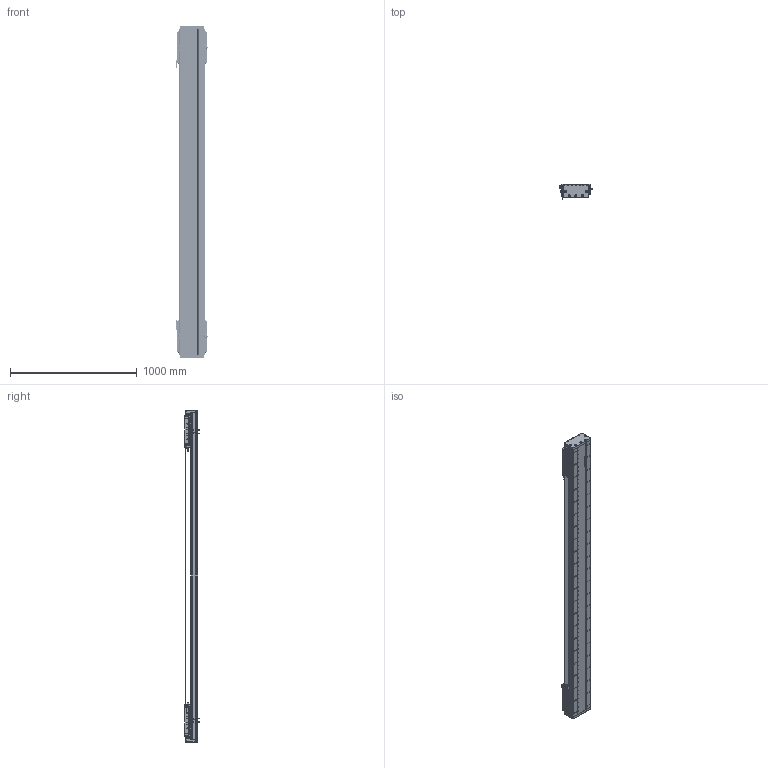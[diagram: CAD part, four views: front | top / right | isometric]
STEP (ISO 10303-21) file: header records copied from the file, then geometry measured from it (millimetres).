
FILE_DESCRIPTION (( 'STEP AP203' ), '1' );
FILE_NAME ('DA-C195-2-C3-T2000-C010-0.2 眻盄萇儂.STEP', '2025-08-15T00:46:18', ( '' ), ( '' ), 'SwSTEP 2.0', 'SolidWorks 2019', '' );
FILE_SCHEMA (( 'CONFIG_CONTROL_DESIGN' ));
Length unit declared in the file: millimetre
Products named in the file (19): DA-C195-GD-DB-H-00 傷啣; DA195詩湍嶺輸; CU195-C3賑輸-俋楷; PM-T45ㄗ侂狟ㄘ; DKW-KGZ-ZJ-00 中间光电开关支架; IU-CU195-L 菁釱絳寢; DA195詩湍裔啣; DKW168-HXJ-ZJ-00 笢潔滅袉砎蝶; DA195詩湍郪璃; PM-Y65嫖萇羲壽郪璃; MS200 棠掑喜S315-T240; DA195詩湍菜輸; 葩璃 DA95-GT-T-00; DA95-HXJ-00 遣喳砎蝶; IU-CU195-L-00 菁釱(L2580); DA-C195-2-C3-T2000-C010-0.2 眻盄萇儂; DA165-GYP-00 光电感应片(默认); DKW-GYP-ZJ-00 笢潔嫖萇覜茼え; LMT黍杅芛
Assembly tree (37 placements, depth 3):
  DA-C195-2-C3-T2000-C010-0.2 眻盄萇儂
    DA195詩湍郪璃
      DA195詩湍菜輸  x2
      DA195詩湍裔啣
      DA195詩湍嶺輸  x2
      DA95-HXJ-00 遣喳砎蝶  x8
      DA-C195-GD-DB-H-00 傷啣  x2
    IU-CU195-L 菁釱絳寢
      IU-CU195-L-00 菁釱(L2580)
      葩璃 DA95-GT-T-00  x4
    LMT黍杅芛  x2
    MS200 棠掑喜S315-T240
    PM-T45ㄗ侂狟ㄘ  x4
    DA165-GYP-00 光电感应片(默认)  x2
    PM-Y65嫖萇羲壽郪璃
    DKW168-HXJ-ZJ-00 笢潔滅袉砎蝶
    DKW-GYP-ZJ-00 笢潔嫖萇覜茼え
    DKW-KGZ-ZJ-00 中间光电开关支架
    CU195-C3賑輸-俋楷  x2
Bounding box: 258.2 x 115.45 x 2620 mm (x, y, z)
Volume: 17019558.3 mm3; surface area: 4877582.5 mm2
Topology: 154 solids, 218 shells, 6901 faces, 18471 edges, 11509 vertices
Faces by surface type: cylinder 3298, plane 2551, cone 884, torus 88, sphere 72, bspline 8
Entity records: 150319 total; most frequent: CARTESIAN_POINT 40245, ORIENTED_EDGE 22958, DIRECTION 21944, EDGE_CURVE 11479, AXIS2_PLACEMENT_3D 8077, VERTEX_POINT 7434, VECTOR 5790, LINE 5790
